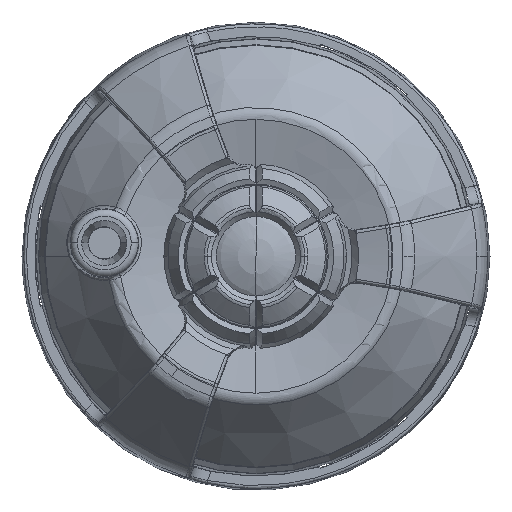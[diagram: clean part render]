
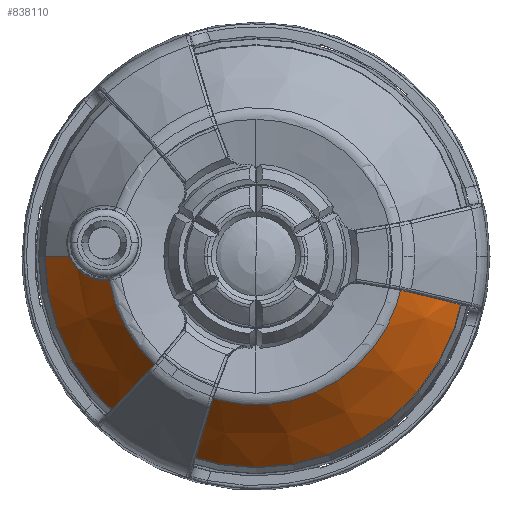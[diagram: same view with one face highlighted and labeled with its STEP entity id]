
A CAD part, front view. The second image highlights one B-rep face of the part: STEP entity #838110.
In plain terms, the highlighted conical face has half-angle 41.459 degrees and reference radius 17.888 mm.
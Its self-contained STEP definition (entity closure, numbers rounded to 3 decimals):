
#496600=CARTESIAN_POINT('',(-12.355,-11.286,
-2.023));
#496610=VERTEX_POINT('',#496600);
#499260=CARTESIAN_POINT('',(-11.816,-11.286,
4.137));
#499270=CARTESIAN_POINT('',(-11.824,-11.275,
4.14));
#499280=CARTESIAN_POINT('',(-11.833,-11.265,
4.143));
#499290=CARTESIAN_POINT('',(-12.061,-10.997,
4.209));
#499300=CARTESIAN_POINT('',(-12.287,-10.741,
4.25));
#499310=CARTESIAN_POINT('',(-12.755,-10.227,
4.283));
#499320=CARTESIAN_POINT('',(-12.997,-9.971,
4.275));
#499330=CARTESIAN_POINT('',(-13.485,-9.471,
4.198));
#499340=CARTESIAN_POINT('',(-13.73,-9.228,
4.131));
#499350=CARTESIAN_POINT('',(-14.323,-8.66,
3.885));
#499360=CARTESIAN_POINT('',(-14.665,-8.349,
3.671));
#499370=CARTESIAN_POINT('',(-15.22,-7.872,
3.129));
#499380=CARTESIAN_POINT('',(-15.44,-7.692,
2.836));
#499390=CARTESIAN_POINT('',(-15.769,-7.446,
2.156));
#499400=CARTESIAN_POINT('',(-15.876,-7.379,
1.78));
#499410=CARTESIAN_POINT('',(-15.944,-7.379,
1.003));
#499420=CARTESIAN_POINT('',(-15.904,-7.446,
0.615));
#499430=CARTESIAN_POINT('',(-15.698,-7.693,
-0.112));
#499440=CARTESIAN_POINT('',(-15.532,-7.872,
-0.439));
#499450=CARTESIAN_POINT('',(-15.08,-8.35,
-1.069));
#499460=CARTESIAN_POINT('',(-14.78,-8.661,
-1.339));
#499470=CARTESIAN_POINT('',(-14.238,-9.228,
-1.685));
#499480=CARTESIAN_POINT('',(-14.008,-9.471,
-1.793));
#499490=CARTESIAN_POINT('',(-13.541,-9.971,
-1.953));
#499500=CARTESIAN_POINT('',(-13.304,-10.227,
-2.003));
#499510=CARTESIAN_POINT('',(-12.838,-10.741,
-2.052));
#499520=CARTESIAN_POINT('',(-12.608,-10.998,
-2.051));
#499530=CARTESIAN_POINT('',(-12.373,-11.265,
-2.025));
#499540=CARTESIAN_POINT('',(-12.364,-11.275,
-2.024));
#499550=CARTESIAN_POINT('',(-12.355,-11.286,
-2.023));
#499560=B_SPLINE_CURVE_WITH_KNOTS('',3,(#499260,#499270,#499280,#499290,
#499300,#499310,#499320,#499330,#499340,#499350,#499360,#499370,#499380,
#499390,#499400,#499410,#499420,#499430,#499440,#499450,#499460,#499470,
#499480,#499490,#499500,#499510,#499520,#499530,#499540,#499550),
.UNSPECIFIED.,.F.,.F.,(4,2,2,2,2,2,2,2,2,2,2,2,2,2,4),(0.,
0.04,1.052,2.084,3.112,
4.59,5.763,6.889,8.014,
9.188,10.666,11.694,12.727,
13.738,13.778),.UNSPECIFIED.);
#499570=CARTESIAN_POINT('',(-15.717,-7.666,
0.));
#499580=VERTEX_POINT('',#499570);
#499590=EDGE_CURVE('',#499580,#496610,#499560,.T.);
#500140=CARTESIAN_POINT('',(0.,-5.208,
0.));
#500150=DIRECTION('',(0.,1.,0.));
#500160=DIRECTION('',(1.,0.,0.));
#500170=AXIS2_PLACEMENT_3D('',#500140,#500150,#500160);
#500180=CONICAL_SURFACE('',#500170,17.888,0.724);
#500190=CARTESIAN_POINT('',(17.888,-5.208,
0.));
#500200=DIRECTION('',(0.662,0.749,
0.));
#500210=VECTOR('',#500200,27.018);
#500220=LINE('',#500190,#500210);
#500230=CARTESIAN_POINT('',(12.519,-11.286,
0.));
#500240=VERTEX_POINT('',#500230);
#500250=CARTESIAN_POINT('',(17.75,-5.365,
0.));
#500260=VERTEX_POINT('',#500250);
#500270=EDGE_CURVE('',#500240,#500260,#500220,.T.);
#500290=CARTESIAN_POINT('',(0.,-11.286,
0.));
#500300=DIRECTION('',(0.,1.,0.));
#500310=DIRECTION('',(1.,0.,0.));
#500320=AXIS2_PLACEMENT_3D('',#500290,#500300,#500310);
#500330=CIRCLE('',#500320,12.519);
#500370=CARTESIAN_POINT('',(-17.889,-5.208,
0.));
#500380=DIRECTION('',(-0.662,0.749,
0.));
#500390=VECTOR('',#500380,27.018);
#500400=LINE('',#500370,#500390);
#500410=CARTESIAN_POINT('',(-17.75,-5.365,
0.));
#500420=VERTEX_POINT('',#500410);
#500430=EDGE_CURVE('',#499580,#500420,#500400,.T.);
#500450=CARTESIAN_POINT('',(0.,-5.365,
0.));
#500460=DIRECTION('',(0.,-1.,0.));
#500470=DIRECTION('',(-1.,0.,0.));
#500480=AXIS2_PLACEMENT_3D('',#500450,#500460,#500470);
#500490=CIRCLE('',#500480,17.75);
#838020=ORIENTED_EDGE('',*,*,#500270,.F.);
#838030=EDGE_CURVE('',#500420,#500260,#500490,.T.);
#838040=ORIENTED_EDGE('',*,*,#838030,.T.);
#838050=ORIENTED_EDGE('',*,*,#500430,.T.);
#838060=ORIENTED_EDGE('',*,*,#499590,.F.);
#838070=EDGE_CURVE('',#500240,#496610,#500330,.T.);
#838080=ORIENTED_EDGE('',*,*,#838070,.T.);
#838090=EDGE_LOOP('',(#838080,#838060,#838050,#838040,#838020));
#838100=FACE_OUTER_BOUND('',#838090,.T.);
#838110=ADVANCED_FACE('',(#838100),#500180,.T.);
